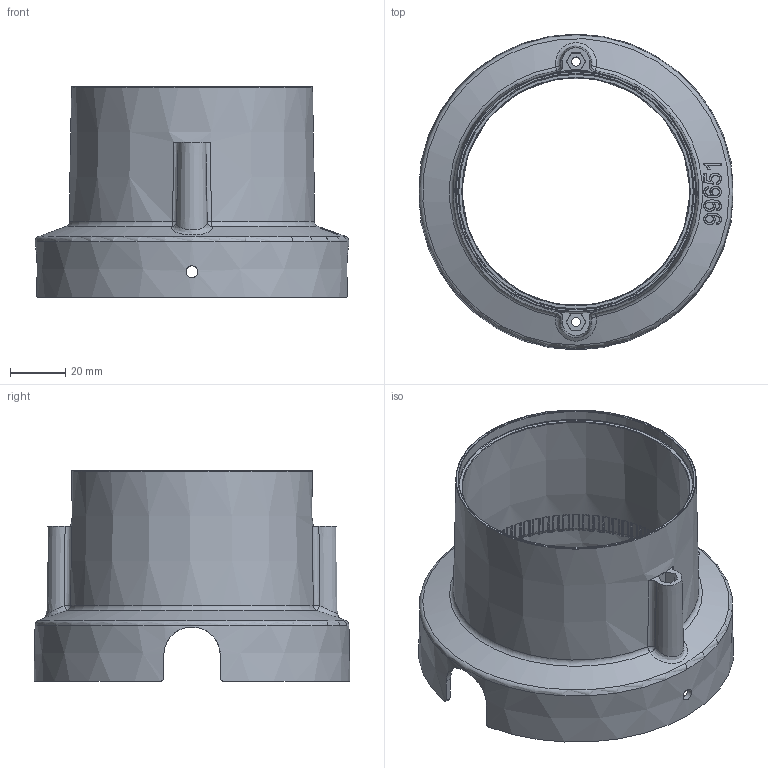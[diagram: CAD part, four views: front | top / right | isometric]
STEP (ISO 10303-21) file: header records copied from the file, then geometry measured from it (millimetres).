
FILE_DESCRIPTION(/* description */ ('Unknown'),/* implementation_level */ '2;1');
FILE_NAME(/* name */ 'E99651',/* time_stamp */ '2023-02-07T11:22:27+01:00',/* author */ ('Unknown'),/* organization */ ('Unknown'),/* preprocessor_version */ 'ST-DEVELOPER v18.1',/* originating_system */ 'Solid Edge',/* authorisation */ 'Unknown');
FILE_SCHEMA (('AUTOMOTIVE_DESIGN {1 0 10303 214 3 1 1}'));
Length unit declared in the file: millimetre
Products named in the file (1): LED-CAS178
Bounding box: 113.32 x 114 x 76 mm (x, y, z)
Volume: 59379 mm3; surface area: 52008.3 mm2
Topology: 1 solids, 1 shells, 1629 faces, 3920 edges, 2281 vertices
Faces by surface type: bspline 1098, cone 173, torus 155, plane 98, cylinder 85, sphere 20
Full cylindrical faces by diameter (mm): 3.3 x2, 4.3 x2, 85 x1
Entity records: 60835 total; most frequent: CARTESIAN_POINT 31403, ORIENTED_EDGE 7730, DIRECTION 3978, EDGE_CURVE 3865, B_SPLINE_CURVE_WITH_KNOTS 2375, VERTEX_POINT 2268, AXIS2_PLACEMENT_3D 1956, EDGE_LOOP 1669
